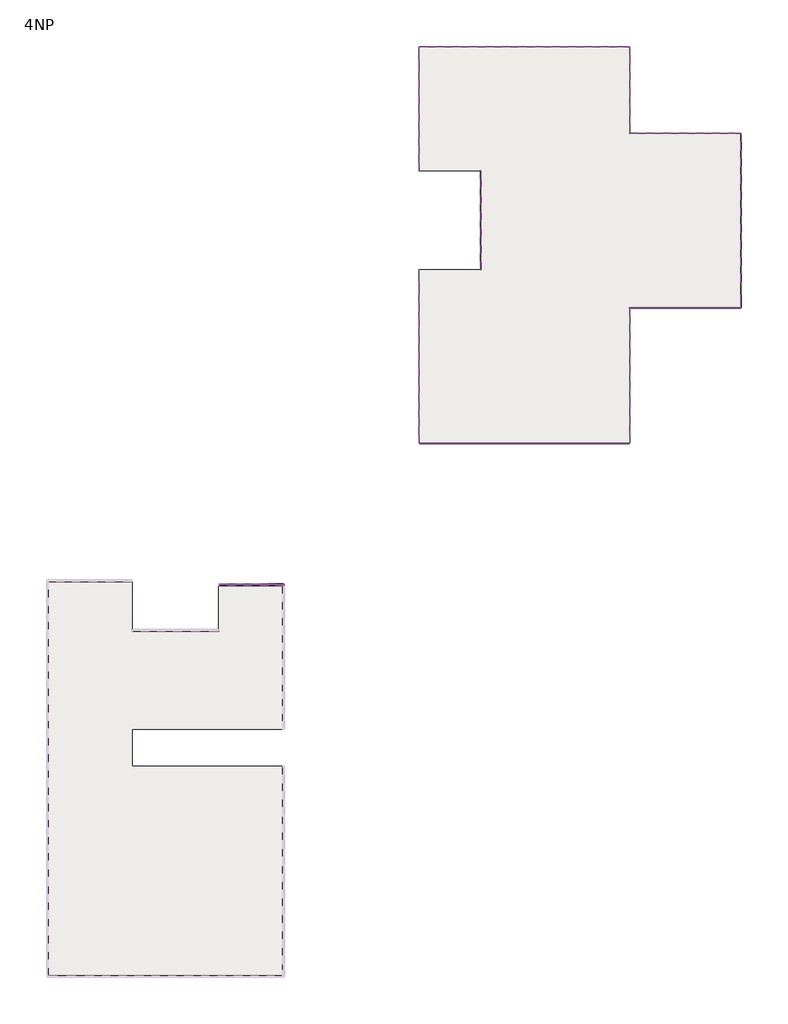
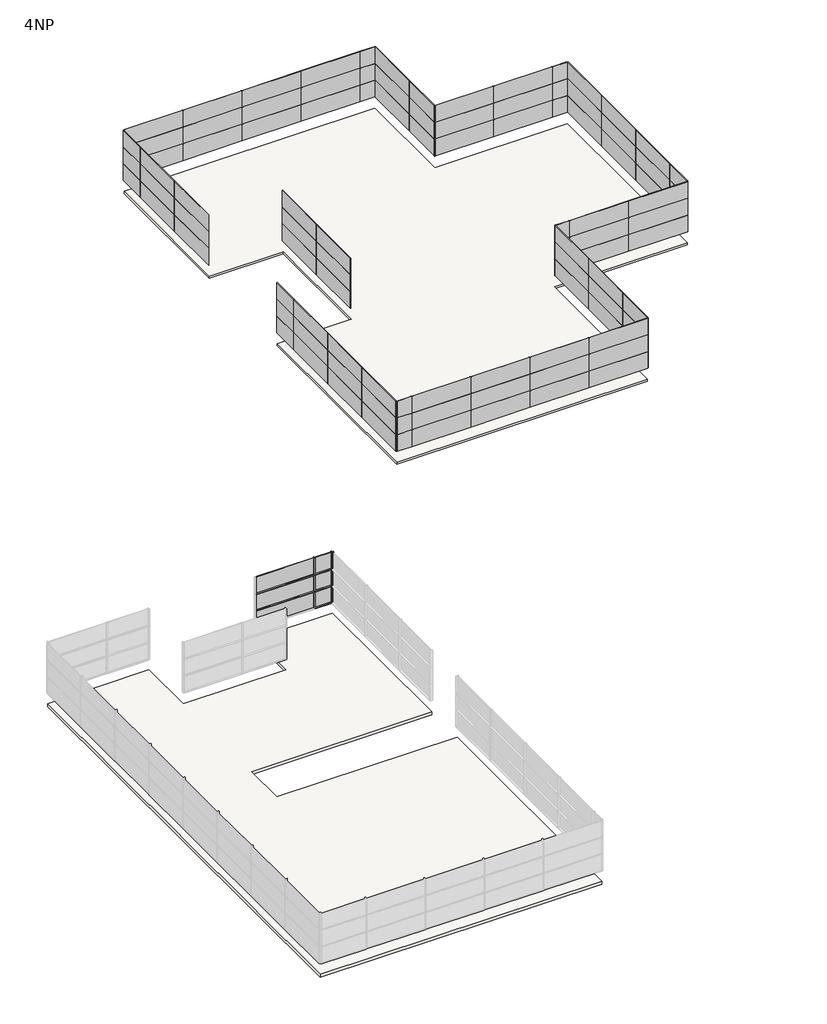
# One storey, part 3 of 3: 108 plates, 14 members, 2 slabs.
"""IFC4 building model written with IfcOpenShell, lengths in millimetres."""

from ifc_helpers import new_model, si_unit, frame, origin, place, context, project, spatial, polyline, outline, extrude, transform, mapped, element, save
from components import rectangular_mullion_50_x_150mm_d99dc9be, rectangular_mullion_50_x_150mm_6588f46c, rectangular_mullion_50_x_150mm_c2546fd4, rectangular_mullion_50_x_150mm_2fe63767, system_panel_glazed_8e9402eb, system_panel_glazed_39d17f19, system_panel_glazed_d6eabcf1, system_panel_glazed_926b6355, system_panel_glazed_d9fb9d0a, system_panel_glazed_4df6a082, system_panel_glazed_76089698, system_panel_glazed_7578c6fa

model = new_model("IFC4")

# Units and contexts
model_context = context("Model", 3, world=origin())
ifc_project = project(units=[si_unit("LENGTHUNIT", "METRE", prefix="MILLI")], contexts=[model_context])

# Site, building, storey
site = spatial("IfcSite", under=ifc_project)
building = spatial("IfcBuilding", under=site)
storey = spatial("IfcBuildingStorey", under=building, Name="4NP", Elevation=16000.0)

# Members
placement = place(None, origin())
rectangular_mullion_50_x_150mm_shape = rectangular_mullion_50_x_150mm_d99dc9be(model_context)
element("IfcMember", 1, ObjectType="Rectangular Mullion : 50 x 150mm", at=placement, inside=storey, context=model_context, shape_type="MappedRepresentation", body=[
    mapped(rectangular_mullion_50_x_150mm_shape, transform((12278.419219, 8039.3555415, 18000.0), x_axis=(1.0, 0.0, 0.0), y_axis=(0.0, 1.0, 0.0), z_axis=(0.0, 0.0, 1.0))),
])
element("IfcMember", 2, ObjectType="Rectangular Mullion : 50 x 150mm", at=placement, inside=storey, context=model_context, shape_type="MappedRepresentation", body=[
    mapped(rectangular_mullion_50_x_150mm_shape, transform((12278.419219, 8039.3555415, 19200.0), x_axis=(1.0, 0.0, 0.0), y_axis=(0.0, 1.0, 0.0), z_axis=(0.0, 0.0, 1.0))),
])
element("IfcMember", 3, ObjectType="Rectangular Mullion : 50 x 150mm", at=placement, inside=storey, context=model_context, shape_type="MappedRepresentation", body=[
    mapped(rectangular_mullion_50_x_150mm_shape, transform((12278.419219, 8039.3555415, 20400.0), x_axis=(1.0, 0.0, 0.0), y_axis=(0.0, 1.0, 0.0), z_axis=(0.0, 0.0, 1.0))),
])
rectangular_mullion_50_x_150mm_2_shape = rectangular_mullion_50_x_150mm_6588f46c(model_context)
element("IfcMember", 4, ObjectType="Rectangular Mullion : 50 x 150mm", at=placement, inside=storey, context=model_context, shape_type="MappedRepresentation", body=[
    mapped(rectangular_mullion_50_x_150mm_2_shape, transform((13503.2660975, 8039.3555415, 18000.0), x_axis=(1.0, 0.0, 0.0), y_axis=(0.0, 1.0, 0.0), z_axis=(0.0, 0.0, 1.0))),
])
element("IfcMember", 5, ObjectType="Rectangular Mullion : 50 x 150mm", at=placement, inside=storey, context=model_context, shape_type="MappedRepresentation", body=[
    mapped(rectangular_mullion_50_x_150mm_2_shape, transform((13503.2660975, 8039.3555415, 19200.0), x_axis=(1.0, 0.0, 0.0), y_axis=(0.0, 1.0, 0.0), z_axis=(0.0, 0.0, 1.0))),
])
element("IfcMember", 6, ObjectType="Rectangular Mullion : 50 x 150mm", at=placement, inside=storey, context=model_context, shape_type="MappedRepresentation", body=[
    mapped(rectangular_mullion_50_x_150mm_2_shape, transform((13503.2660975, 8039.3555415, 20400.0), x_axis=(1.0, 0.0, 0.0), y_axis=(0.0, 1.0, 0.0), z_axis=(0.0, 0.0, 1.0))),
])
rectangular_mullion_50_x_150mm_3_shape = rectangular_mullion_50_x_150mm_c2546fd4(model_context)
element("IfcMember", 7, ObjectType="Rectangular Mullion : 50 x 150mm", at=placement, inside=storey, context=model_context, shape_type="MappedRepresentation", body=[
    mapped(rectangular_mullion_50_x_150mm_3_shape, transform((8328.419219, 8039.3555415, 18000.0), x_axis=(0.0, 0.0, 1.0), y_axis=(0.0, 1.0, 0.0), z_axis=(-1.0, 0.0, 0.0))),
])
element("IfcMember", 8, ObjectType="Rectangular Mullion : 50 x 150mm", at=placement, inside=storey, context=model_context, shape_type="MappedRepresentation", body=[
    mapped(rectangular_mullion_50_x_150mm_3_shape, transform((8328.419219, 8039.3555415, 19200.0), x_axis=(0.0, 0.0, 1.0), y_axis=(0.0, 1.0, 0.0), z_axis=(-1.0, 0.0, 0.0))),
])
element("IfcMember", 9, ObjectType="Rectangular Mullion : 50 x 150mm", at=placement, inside=storey, context=model_context, shape_type="MappedRepresentation", body=[
    mapped(rectangular_mullion_50_x_150mm_2_shape, transform((13503.2660975, 8039.3555415, 19200.0), x_axis=(0.0, 1.0, 0.0), y_axis=(1.0, 0.0, 0.0), z_axis=(0.0, 0.0, -1.0))),
])
element("IfcMember", 10, ObjectType="Rectangular Mullion : 50 x 150mm", at=placement, inside=storey, context=model_context, shape_type="MappedRepresentation", body=[
    mapped(rectangular_mullion_50_x_150mm_2_shape, transform((13503.2660975, 8039.3555415, 18000.0), x_axis=(0.0, 1.0, 0.0), y_axis=(1.0, 0.0, 0.0), z_axis=(0.0, 0.0, -1.0))),
])
element("IfcMember", 11, ObjectType="Rectangular Mullion : 50 x 150mm", at=placement, inside=storey, context=model_context, shape_type="MappedRepresentation", body=[
    mapped(rectangular_mullion_50_x_150mm_2_shape, transform((13503.2660975, 8039.3555415, 16800.0), x_axis=(0.0, 1.0, 0.0), y_axis=(1.0, 0.0, 0.0), z_axis=(0.0, 0.0, -1.0))),
])
rectangular_mullion_50_x_150mm_4_shape = rectangular_mullion_50_x_150mm_2fe63767(model_context)
element("IfcMember", 12, ObjectType="Rectangular Mullion : 50 x 150mm", at=placement, inside=storey, context=model_context, shape_type="MappedRepresentation", body=[
    mapped(rectangular_mullion_50_x_150mm_4_shape, transform((12303.419219, 8039.3555415, 16800.0), x_axis=(0.0, 0.0, 1.0), y_axis=(0.0, 1.0, 0.0), z_axis=(-1.0, 0.0, 0.0))),
])
element("IfcMember", 13, ObjectType="Rectangular Mullion : 50 x 150mm", at=placement, inside=storey, context=model_context, shape_type="MappedRepresentation", body=[
    mapped(rectangular_mullion_50_x_150mm_4_shape, transform((12303.419219, 8039.3555415, 18000.0), x_axis=(0.0, 0.0, 1.0), y_axis=(0.0, 1.0, 0.0), z_axis=(-1.0, 0.0, 0.0))),
])
element("IfcMember", 14, ObjectType="Rectangular Mullion : 50 x 150mm", at=placement, inside=storey, context=model_context, shape_type="MappedRepresentation", body=[
    mapped(rectangular_mullion_50_x_150mm_4_shape, transform((12303.419219, 8039.3555415, 19200.0), x_axis=(0.0, 0.0, 1.0), y_axis=(0.0, 1.0, 0.0), z_axis=(-1.0, 0.0, 0.0))),
])

# Plates
system_panel_glazed_shape = system_panel_glazed_8e9402eb(model_context)
element("IfcPlate", 15, ObjectType="System Panel : Glazed", at=placement, inside=storey, context=model_context, shape_type="MappedRepresentation", body=[
    mapped(system_panel_glazed_shape, transform((10290.919219, 8039.3555415, 16825.0), x_axis=(1.0, 0.0, 0.0), y_axis=(0.0, 1.0, 0.0), z_axis=(0.0, 0.0, 1.0))),
])
element("IfcPlate", 16, ObjectType="System Panel : Glazed", at=placement, inside=storey, context=model_context, shape_type="MappedRepresentation", body=[
    mapped(system_panel_glazed_shape, transform((10290.919219, 8039.3555415, 18025.0), x_axis=(1.0, 0.0, 0.0), y_axis=(0.0, 1.0, 0.0), z_axis=(0.0, 0.0, 1.0))),
])
element("IfcPlate", 17, ObjectType="System Panel : Glazed", at=placement, inside=storey, context=model_context, shape_type="MappedRepresentation", body=[
    mapped(system_panel_glazed_shape, transform((10290.919219, 8039.3555415, 19225.0), x_axis=(1.0, 0.0, 0.0), y_axis=(0.0, 1.0, 0.0), z_axis=(0.0, 0.0, 1.0))),
])
system_panel_glazed_2_shape = system_panel_glazed_39d17f19(model_context)
element("IfcPlate", 18, ObjectType="System Panel : Glazed", at=placement, inside=storey, context=model_context, shape_type="MappedRepresentation", body=[
    mapped(system_panel_glazed_2_shape, transform((12878.3426582, 8039.3555415, 16825.0), x_axis=(1.0, 0.0, 0.0), y_axis=(0.0, 1.0, 0.0), z_axis=(0.0, 0.0, 1.0))),
])
element("IfcPlate", 19, ObjectType="System Panel : Glazed", at=placement, inside=storey, context=model_context, shape_type="MappedRepresentation", body=[
    mapped(system_panel_glazed_2_shape, transform((12878.3426582, 8039.3555415, 18025.0), x_axis=(1.0, 0.0, 0.0), y_axis=(0.0, 1.0, 0.0), z_axis=(0.0, 0.0, 1.0))),
])
element("IfcPlate", 20, ObjectType="System Panel : Glazed", at=placement, inside=storey, context=model_context, shape_type="MappedRepresentation", body=[
    mapped(system_panel_glazed_2_shape, transform((12878.3426582, 8039.3555415, 19225.0), x_axis=(1.0, 0.0, 0.0), y_axis=(0.0, 1.0, 0.0), z_axis=(0.0, 0.0, 1.0))),
])
system_panel_glazed_3_shape = system_panel_glazed_d6eabcf1(model_context)
element("IfcPlate", 21, ObjectType="System Panel : Glazed", at=placement, inside=storey, context=model_context, shape_type="MappedRepresentation", body=[
    mapped(system_panel_glazed_3_shape, transform((39503.2660975, 19519.7749227, 16800.0), x_axis=(-1.0, 0.0, 0.0), y_axis=(0.0, -1.0, 0.0), z_axis=(0.0, 0.0, 1.0))),
])
element("IfcPlate", 22, ObjectType="System Panel : Glazed", at=placement, inside=storey, context=model_context, shape_type="MappedRepresentation", body=[
    mapped(system_panel_glazed_3_shape, transform((35503.2660975, 19519.7749227, 16800.0), x_axis=(-1.0, 0.0, 0.0), y_axis=(0.0, -1.0, 0.0), z_axis=(0.0, 0.0, 1.0))),
])
element("IfcPlate", 23, ObjectType="System Panel : Glazed", at=placement, inside=storey, context=model_context, shape_type="MappedRepresentation", body=[
    mapped(system_panel_glazed_3_shape, transform((31503.2660975, 19519.7749227, 16800.0), x_axis=(-1.0, 0.0, 0.0), y_axis=(0.0, -1.0, 0.0), z_axis=(0.0, 0.0, 1.0))),
])
element("IfcPlate", 24, ObjectType="System Panel : Glazed", at=placement, inside=storey, context=model_context, shape_type="MappedRepresentation", body=[
    mapped(system_panel_glazed_3_shape, transform((27503.2660975, 19519.7749227, 16800.0), x_axis=(-1.0, 0.0, 0.0), y_axis=(0.0, -1.0, 0.0), z_axis=(0.0, 0.0, 1.0))),
])
element("IfcPlate", 25, ObjectType="System Panel : Glazed", at=placement, inside=storey, context=model_context, shape_type="MappedRepresentation", body=[
    mapped(system_panel_glazed_3_shape, transform((39503.2660975, 19519.7749227, 18000.0), x_axis=(-1.0, 0.0, 0.0), y_axis=(0.0, -1.0, 0.0), z_axis=(0.0, 0.0, 1.0))),
])
element("IfcPlate", 26, ObjectType="System Panel : Glazed", at=placement, inside=storey, context=model_context, shape_type="MappedRepresentation", body=[
    mapped(system_panel_glazed_3_shape, transform((35503.2660975, 19519.7749227, 18000.0), x_axis=(-1.0, 0.0, 0.0), y_axis=(0.0, -1.0, 0.0), z_axis=(0.0, 0.0, 1.0))),
])
element("IfcPlate", 27, ObjectType="System Panel : Glazed", at=placement, inside=storey, context=model_context, shape_type="MappedRepresentation", body=[
    mapped(system_panel_glazed_3_shape, transform((31503.2660975, 19519.7749227, 18000.0), x_axis=(-1.0, 0.0, 0.0), y_axis=(0.0, -1.0, 0.0), z_axis=(0.0, 0.0, 1.0))),
])
element("IfcPlate", 28, ObjectType="System Panel : Glazed", at=placement, inside=storey, context=model_context, shape_type="MappedRepresentation", body=[
    mapped(system_panel_glazed_3_shape, transform((27503.2660975, 19519.7749227, 18000.0), x_axis=(-1.0, 0.0, 0.0), y_axis=(0.0, -1.0, 0.0), z_axis=(0.0, 0.0, 1.0))),
])
element("IfcPlate", 29, ObjectType="System Panel : Glazed", at=placement, inside=storey, context=model_context, shape_type="MappedRepresentation", body=[
    mapped(system_panel_glazed_3_shape, transform((39503.2660975, 19519.7749227, 19200.0), x_axis=(-1.0, 0.0, 0.0), y_axis=(0.0, -1.0, 0.0), z_axis=(0.0, 0.0, 1.0))),
])
element("IfcPlate", 30, ObjectType="System Panel : Glazed", at=placement, inside=storey, context=model_context, shape_type="MappedRepresentation", body=[
    mapped(system_panel_glazed_3_shape, transform((35503.2660975, 19519.7749227, 19200.0), x_axis=(-1.0, 0.0, 0.0), y_axis=(0.0, -1.0, 0.0), z_axis=(0.0, 0.0, 1.0))),
])
element("IfcPlate", 31, ObjectType="System Panel : Glazed", at=placement, inside=storey, context=model_context, shape_type="MappedRepresentation", body=[
    mapped(system_panel_glazed_3_shape, transform((31503.2660975, 19519.7749227, 19200.0), x_axis=(-1.0, 0.0, 0.0), y_axis=(0.0, -1.0, 0.0), z_axis=(0.0, 0.0, 1.0))),
])
element("IfcPlate", 32, ObjectType="System Panel : Glazed", at=placement, inside=storey, context=model_context, shape_type="MappedRepresentation", body=[
    mapped(system_panel_glazed_3_shape, transform((27503.2660975, 19519.7749227, 19200.0), x_axis=(-1.0, 0.0, 0.0), y_axis=(0.0, -1.0, 0.0), z_axis=(0.0, 0.0, 1.0))),
])
element("IfcPlate", 33, ObjectType="System Panel : Glazed", at=placement, inside=storey, context=model_context, shape_type="MappedRepresentation", body=[
    mapped(system_panel_glazed_3_shape, transform((24503.2660975, 21519.7749227, 16800.0), x_axis=(0.0, 1.0, 0.0), y_axis=(-1.0, 0.0, 0.0), z_axis=(0.0, 0.0, 1.0))),
])
element("IfcPlate", 34, ObjectType="System Panel : Glazed", at=placement, inside=storey, context=model_context, shape_type="MappedRepresentation", body=[
    mapped(system_panel_glazed_3_shape, transform((24503.2660975, 25519.7749227, 16800.0), x_axis=(0.0, 1.0, 0.0), y_axis=(-1.0, 0.0, 0.0), z_axis=(0.0, 0.0, 1.0))),
])
element("IfcPlate", 35, ObjectType="System Panel : Glazed", at=placement, inside=storey, context=model_context, shape_type="MappedRepresentation", body=[
    mapped(system_panel_glazed_3_shape, transform((24503.2660975, 29519.7749227, 16800.0), x_axis=(0.0, 1.0, 0.0), y_axis=(-1.0, 0.0, 0.0), z_axis=(0.0, 0.0, 1.0))),
])
element("IfcPlate", 36, ObjectType="System Panel : Glazed", at=placement, inside=storey, context=model_context, shape_type="MappedRepresentation", body=[
    mapped(system_panel_glazed_3_shape, transform((24503.2660975, 21519.7749227, 18000.0), x_axis=(0.0, 1.0, 0.0), y_axis=(-1.0, 0.0, 0.0), z_axis=(0.0, 0.0, 1.0))),
])
element("IfcPlate", 37, ObjectType="System Panel : Glazed", at=placement, inside=storey, context=model_context, shape_type="MappedRepresentation", body=[
    mapped(system_panel_glazed_3_shape, transform((24503.2660975, 25519.7749227, 18000.0), x_axis=(0.0, 1.0, 0.0), y_axis=(-1.0, 0.0, 0.0), z_axis=(0.0, 0.0, 1.0))),
])
element("IfcPlate", 38, ObjectType="System Panel : Glazed", at=placement, inside=storey, context=model_context, shape_type="MappedRepresentation", body=[
    mapped(system_panel_glazed_3_shape, transform((24503.2660975, 29519.7749227, 18000.0), x_axis=(0.0, 1.0, 0.0), y_axis=(-1.0, 0.0, 0.0), z_axis=(0.0, 0.0, 1.0))),
])
element("IfcPlate", 39, ObjectType="System Panel : Glazed", at=placement, inside=storey, context=model_context, shape_type="MappedRepresentation", body=[
    mapped(system_panel_glazed_3_shape, transform((24503.2660975, 21519.7749227, 19200.0), x_axis=(0.0, 1.0, 0.0), y_axis=(-1.0, 0.0, 0.0), z_axis=(0.0, 0.0, 1.0))),
])
element("IfcPlate", 40, ObjectType="System Panel : Glazed", at=placement, inside=storey, context=model_context, shape_type="MappedRepresentation", body=[
    mapped(system_panel_glazed_3_shape, transform((24503.2660975, 25519.7749227, 19200.0), x_axis=(0.0, 1.0, 0.0), y_axis=(-1.0, 0.0, 0.0), z_axis=(0.0, 0.0, 1.0))),
])
element("IfcPlate", 41, ObjectType="System Panel : Glazed", at=placement, inside=storey, context=model_context, shape_type="MappedRepresentation", body=[
    mapped(system_panel_glazed_3_shape, transform((24503.2660975, 29519.7749227, 19200.0), x_axis=(0.0, 1.0, 0.0), y_axis=(-1.0, 0.0, 0.0), z_axis=(0.0, 0.0, 1.0))),
])
element("IfcPlate", 42, ObjectType="System Panel : Glazed", at=placement, inside=storey, context=model_context, shape_type="MappedRepresentation", body=[
    mapped(system_panel_glazed_3_shape, transform((29503.2660975, 35519.7749227, 16800.0), x_axis=(0.0, 1.0, 0.0), y_axis=(-1.0, 0.0, 0.0), z_axis=(0.0, 0.0, 1.0))),
])
element("IfcPlate", 43, ObjectType="System Panel : Glazed", at=placement, inside=storey, context=model_context, shape_type="MappedRepresentation", body=[
    mapped(system_panel_glazed_3_shape, transform((29503.2660975, 39519.7749227, 16800.0), x_axis=(0.0, 1.0, 0.0), y_axis=(-1.0, 0.0, 0.0), z_axis=(0.0, 0.0, 1.0))),
])
element("IfcPlate", 44, ObjectType="System Panel : Glazed", at=placement, inside=storey, context=model_context, shape_type="MappedRepresentation", body=[
    mapped(system_panel_glazed_3_shape, transform((29503.2660975, 35519.7749227, 18000.0), x_axis=(0.0, 1.0, 0.0), y_axis=(-1.0, 0.0, 0.0), z_axis=(0.0, 0.0, 1.0))),
])
element("IfcPlate", 45, ObjectType="System Panel : Glazed", at=placement, inside=storey, context=model_context, shape_type="MappedRepresentation", body=[
    mapped(system_panel_glazed_3_shape, transform((29503.2660975, 39519.7749227, 18000.0), x_axis=(0.0, 1.0, 0.0), y_axis=(-1.0, 0.0, 0.0), z_axis=(0.0, 0.0, 1.0))),
])
element("IfcPlate", 46, ObjectType="System Panel : Glazed", at=placement, inside=storey, context=model_context, shape_type="MappedRepresentation", body=[
    mapped(system_panel_glazed_3_shape, transform((29503.2660975, 35519.7749227, 19200.0), x_axis=(0.0, 1.0, 0.0), y_axis=(-1.0, 0.0, 0.0), z_axis=(0.0, 0.0, 1.0))),
])
element("IfcPlate", 47, ObjectType="System Panel : Glazed", at=placement, inside=storey, context=model_context, shape_type="MappedRepresentation", body=[
    mapped(system_panel_glazed_3_shape, transform((29503.2660975, 39519.7749227, 19200.0), x_axis=(0.0, 1.0, 0.0), y_axis=(-1.0, 0.0, 0.0), z_axis=(0.0, 0.0, 1.0))),
])
element("IfcPlate", 48, ObjectType="System Panel : Glazed", at=placement, inside=storey, context=model_context, shape_type="MappedRepresentation", body=[
    mapped(system_panel_glazed_3_shape, transform((24503.2660975, 43519.7749227, 16800.0), x_axis=(0.0, 1.0, 0.0), y_axis=(-1.0, 0.0, 0.0), z_axis=(0.0, 0.0, 1.0))),
])
element("IfcPlate", 49, ObjectType="System Panel : Glazed", at=placement, inside=storey, context=model_context, shape_type="MappedRepresentation", body=[
    mapped(system_panel_glazed_3_shape, transform((24503.2660975, 47519.7749227, 16800.0), x_axis=(0.0, 1.0, 0.0), y_axis=(-1.0, 0.0, 0.0), z_axis=(0.0, 0.0, 1.0))),
])
element("IfcPlate", 50, ObjectType="System Panel : Glazed", at=placement, inside=storey, context=model_context, shape_type="MappedRepresentation", body=[
    mapped(system_panel_glazed_3_shape, transform((24503.2660975, 43519.7749227, 18000.0), x_axis=(0.0, 1.0, 0.0), y_axis=(-1.0, 0.0, 0.0), z_axis=(0.0, 0.0, 1.0))),
])
element("IfcPlate", 51, ObjectType="System Panel : Glazed", at=placement, inside=storey, context=model_context, shape_type="MappedRepresentation", body=[
    mapped(system_panel_glazed_3_shape, transform((24503.2660975, 47519.7749227, 18000.0), x_axis=(0.0, 1.0, 0.0), y_axis=(-1.0, 0.0, 0.0), z_axis=(0.0, 0.0, 1.0))),
])
element("IfcPlate", 52, ObjectType="System Panel : Glazed", at=placement, inside=storey, context=model_context, shape_type="MappedRepresentation", body=[
    mapped(system_panel_glazed_3_shape, transform((24503.2660975, 43519.7749227, 19200.0), x_axis=(0.0, 1.0, 0.0), y_axis=(-1.0, 0.0, 0.0), z_axis=(0.0, 0.0, 1.0))),
])
element("IfcPlate", 53, ObjectType="System Panel : Glazed", at=placement, inside=storey, context=model_context, shape_type="MappedRepresentation", body=[
    mapped(system_panel_glazed_3_shape, transform((24503.2660975, 47519.7749227, 19200.0), x_axis=(0.0, 1.0, 0.0), y_axis=(-1.0, 0.0, 0.0), z_axis=(0.0, 0.0, 1.0))),
])
element("IfcPlate", 54, ObjectType="System Panel : Glazed", at=placement, inside=storey, context=model_context, shape_type="MappedRepresentation", body=[
    mapped(system_panel_glazed_3_shape, transform((48503.2660975, 30457.4517739, 16800.0), x_axis=(-1.0, 0.0, 0.0), y_axis=(0.0, -1.0, 0.0), z_axis=(0.0, 0.0, 1.0))),
])
element("IfcPlate", 55, ObjectType="System Panel : Glazed", at=placement, inside=storey, context=model_context, shape_type="MappedRepresentation", body=[
    mapped(system_panel_glazed_3_shape, transform((44503.2660975, 30457.4517739, 16800.0), x_axis=(-1.0, 0.0, 0.0), y_axis=(0.0, -1.0, 0.0), z_axis=(0.0, 0.0, 1.0))),
])
element("IfcPlate", 56, ObjectType="System Panel : Glazed", at=placement, inside=storey, context=model_context, shape_type="MappedRepresentation", body=[
    mapped(system_panel_glazed_3_shape, transform((48503.2660975, 30457.4517739, 18000.0), x_axis=(-1.0, 0.0, 0.0), y_axis=(0.0, -1.0, 0.0), z_axis=(0.0, 0.0, 1.0))),
])
element("IfcPlate", 57, ObjectType="System Panel : Glazed", at=placement, inside=storey, context=model_context, shape_type="MappedRepresentation", body=[
    mapped(system_panel_glazed_3_shape, transform((44503.2660975, 30457.4517739, 18000.0), x_axis=(-1.0, 0.0, 0.0), y_axis=(0.0, -1.0, 0.0), z_axis=(0.0, 0.0, 1.0))),
])
element("IfcPlate", 58, ObjectType="System Panel : Glazed", at=placement, inside=storey, context=model_context, shape_type="MappedRepresentation", body=[
    mapped(system_panel_glazed_3_shape, transform((48503.2660975, 30457.4517739, 19200.0), x_axis=(-1.0, 0.0, 0.0), y_axis=(0.0, -1.0, 0.0), z_axis=(0.0, 0.0, 1.0))),
])
element("IfcPlate", 59, ObjectType="System Panel : Glazed", at=placement, inside=storey, context=model_context, shape_type="MappedRepresentation", body=[
    mapped(system_panel_glazed_3_shape, transform((44503.2660975, 30457.4517739, 19200.0), x_axis=(-1.0, 0.0, 0.0), y_axis=(0.0, -1.0, 0.0), z_axis=(0.0, 0.0, 1.0))),
])
element("IfcPlate", 60, ObjectType="System Panel : Glazed", at=placement, inside=storey, context=model_context, shape_type="MappedRepresentation", body=[
    mapped(system_panel_glazed_3_shape, transform((26503.2660975, 51519.7749227, 16800.0), x_axis=(1.0, 0.0, 0.0), y_axis=(0.0, 1.0, 0.0), z_axis=(0.0, 0.0, 1.0))),
])
element("IfcPlate", 61, ObjectType="System Panel : Glazed", at=placement, inside=storey, context=model_context, shape_type="MappedRepresentation", body=[
    mapped(system_panel_glazed_3_shape, transform((30503.2660975, 51519.7749227, 16800.0), x_axis=(1.0, 0.0, 0.0), y_axis=(0.0, 1.0, 0.0), z_axis=(0.0, 0.0, 1.0))),
])
element("IfcPlate", 62, ObjectType="System Panel : Glazed", at=placement, inside=storey, context=model_context, shape_type="MappedRepresentation", body=[
    mapped(system_panel_glazed_3_shape, transform((34503.2660975, 51519.7749227, 16800.0), x_axis=(1.0, 0.0, 0.0), y_axis=(0.0, 1.0, 0.0), z_axis=(0.0, 0.0, 1.0))),
])
element("IfcPlate", 63, ObjectType="System Panel : Glazed", at=placement, inside=storey, context=model_context, shape_type="MappedRepresentation", body=[
    mapped(system_panel_glazed_3_shape, transform((38503.2660975, 51519.7749227, 16800.0), x_axis=(1.0, 0.0, 0.0), y_axis=(0.0, 1.0, 0.0), z_axis=(0.0, 0.0, 1.0))),
])
element("IfcPlate", 64, ObjectType="System Panel : Glazed", at=placement, inside=storey, context=model_context, shape_type="MappedRepresentation", body=[
    mapped(system_panel_glazed_3_shape, transform((26503.2660975, 51519.7749227, 18000.0), x_axis=(1.0, 0.0, 0.0), y_axis=(0.0, 1.0, 0.0), z_axis=(0.0, 0.0, 1.0))),
])
element("IfcPlate", 65, ObjectType="System Panel : Glazed", at=placement, inside=storey, context=model_context, shape_type="MappedRepresentation", body=[
    mapped(system_panel_glazed_3_shape, transform((30503.2660975, 51519.7749227, 18000.0), x_axis=(1.0, 0.0, 0.0), y_axis=(0.0, 1.0, 0.0), z_axis=(0.0, 0.0, 1.0))),
])
element("IfcPlate", 66, ObjectType="System Panel : Glazed", at=placement, inside=storey, context=model_context, shape_type="MappedRepresentation", body=[
    mapped(system_panel_glazed_3_shape, transform((34503.2660975, 51519.7749227, 18000.0), x_axis=(1.0, 0.0, 0.0), y_axis=(0.0, 1.0, 0.0), z_axis=(0.0, 0.0, 1.0))),
])
element("IfcPlate", 67, ObjectType="System Panel : Glazed", at=placement, inside=storey, context=model_context, shape_type="MappedRepresentation", body=[
    mapped(system_panel_glazed_3_shape, transform((38503.2660975, 51519.7749227, 18000.0), x_axis=(1.0, 0.0, 0.0), y_axis=(0.0, 1.0, 0.0), z_axis=(0.0, 0.0, 1.0))),
])
element("IfcPlate", 68, ObjectType="System Panel : Glazed", at=placement, inside=storey, context=model_context, shape_type="MappedRepresentation", body=[
    mapped(system_panel_glazed_3_shape, transform((26503.2660975, 51519.7749227, 19200.0), x_axis=(1.0, 0.0, 0.0), y_axis=(0.0, 1.0, 0.0), z_axis=(0.0, 0.0, 1.0))),
])
element("IfcPlate", 69, ObjectType="System Panel : Glazed", at=placement, inside=storey, context=model_context, shape_type="MappedRepresentation", body=[
    mapped(system_panel_glazed_3_shape, transform((30503.2660975, 51519.7749227, 19200.0), x_axis=(1.0, 0.0, 0.0), y_axis=(0.0, 1.0, 0.0), z_axis=(0.0, 0.0, 1.0))),
])
element("IfcPlate", 70, ObjectType="System Panel : Glazed", at=placement, inside=storey, context=model_context, shape_type="MappedRepresentation", body=[
    mapped(system_panel_glazed_3_shape, transform((34503.2660975, 51519.7749227, 19200.0), x_axis=(1.0, 0.0, 0.0), y_axis=(0.0, 1.0, 0.0), z_axis=(0.0, 0.0, 1.0))),
])
element("IfcPlate", 71, ObjectType="System Panel : Glazed", at=placement, inside=storey, context=model_context, shape_type="MappedRepresentation", body=[
    mapped(system_panel_glazed_3_shape, transform((38503.2660975, 51519.7749227, 19200.0), x_axis=(1.0, 0.0, 0.0), y_axis=(0.0, 1.0, 0.0), z_axis=(0.0, 0.0, 1.0))),
])
element("IfcPlate", 72, ObjectType="System Panel : Glazed", at=placement, inside=storey, context=model_context, shape_type="MappedRepresentation", body=[
    mapped(system_panel_glazed_3_shape, transform((41503.2660975, 49519.7749227, 16800.0), x_axis=(0.0, -1.0, 0.0), y_axis=(1.0, 0.0, 0.0), z_axis=(0.0, 0.0, 1.0))),
])
element("IfcPlate", 73, ObjectType="System Panel : Glazed", at=placement, inside=storey, context=model_context, shape_type="MappedRepresentation", body=[
    mapped(system_panel_glazed_3_shape, transform((41503.2660975, 49519.7749227, 18000.0), x_axis=(0.0, -1.0, 0.0), y_axis=(1.0, 0.0, 0.0), z_axis=(0.0, 0.0, 1.0))),
])
element("IfcPlate", 74, ObjectType="System Panel : Glazed", at=placement, inside=storey, context=model_context, shape_type="MappedRepresentation", body=[
    mapped(system_panel_glazed_3_shape, transform((41503.2660975, 49519.7749227, 19200.0), x_axis=(0.0, -1.0, 0.0), y_axis=(1.0, 0.0, 0.0), z_axis=(0.0, 0.0, 1.0))),
])
element("IfcPlate", 75, ObjectType="System Panel : Glazed", at=placement, inside=storey, context=model_context, shape_type="MappedRepresentation", body=[
    mapped(system_panel_glazed_3_shape, transform((43503.2660975, 44519.7749227, 16800.0), x_axis=(1.0, 0.0, 0.0), y_axis=(0.0, 1.0, 0.0), z_axis=(0.0, 0.0, 1.0))),
])
element("IfcPlate", 76, ObjectType="System Panel : Glazed", at=placement, inside=storey, context=model_context, shape_type="MappedRepresentation", body=[
    mapped(system_panel_glazed_3_shape, transform((47503.2660975, 44519.7749227, 16800.0), x_axis=(1.0, 0.0, 0.0), y_axis=(0.0, 1.0, 0.0), z_axis=(0.0, 0.0, 1.0))),
])
element("IfcPlate", 77, ObjectType="System Panel : Glazed", at=placement, inside=storey, context=model_context, shape_type="MappedRepresentation", body=[
    mapped(system_panel_glazed_3_shape, transform((43503.2660975, 44519.7749227, 18000.0), x_axis=(1.0, 0.0, 0.0), y_axis=(0.0, 1.0, 0.0), z_axis=(0.0, 0.0, 1.0))),
])
element("IfcPlate", 78, ObjectType="System Panel : Glazed", at=placement, inside=storey, context=model_context, shape_type="MappedRepresentation", body=[
    mapped(system_panel_glazed_3_shape, transform((47503.2660975, 44519.7749227, 18000.0), x_axis=(1.0, 0.0, 0.0), y_axis=(0.0, 1.0, 0.0), z_axis=(0.0, 0.0, 1.0))),
])
element("IfcPlate", 79, ObjectType="System Panel : Glazed", at=placement, inside=storey, context=model_context, shape_type="MappedRepresentation", body=[
    mapped(system_panel_glazed_3_shape, transform((43503.2660975, 44519.7749227, 19200.0), x_axis=(1.0, 0.0, 0.0), y_axis=(0.0, 1.0, 0.0), z_axis=(0.0, 0.0, 1.0))),
])
element("IfcPlate", 80, ObjectType="System Panel : Glazed", at=placement, inside=storey, context=model_context, shape_type="MappedRepresentation", body=[
    mapped(system_panel_glazed_3_shape, transform((47503.2660975, 44519.7749227, 19200.0), x_axis=(1.0, 0.0, 0.0), y_axis=(0.0, 1.0, 0.0), z_axis=(0.0, 0.0, 1.0))),
])
element("IfcPlate", 81, ObjectType="System Panel : Glazed", at=placement, inside=storey, context=model_context, shape_type="MappedRepresentation", body=[
    mapped(system_panel_glazed_3_shape, transform((50503.2660975, 42519.7749227, 16800.0), x_axis=(0.0, -1.0, 0.0), y_axis=(1.0, 0.0, 0.0), z_axis=(0.0, 0.0, 1.0))),
])
element("IfcPlate", 82, ObjectType="System Panel : Glazed", at=placement, inside=storey, context=model_context, shape_type="MappedRepresentation", body=[
    mapped(system_panel_glazed_3_shape, transform((50503.2660975, 38519.7749227, 16800.0), x_axis=(0.0, -1.0, 0.0), y_axis=(1.0, 0.0, 0.0), z_axis=(0.0, 0.0, 1.0))),
])
element("IfcPlate", 83, ObjectType="System Panel : Glazed", at=placement, inside=storey, context=model_context, shape_type="MappedRepresentation", body=[
    mapped(system_panel_glazed_3_shape, transform((50503.2660975, 34519.7749227, 16800.0), x_axis=(0.0, -1.0, 0.0), y_axis=(1.0, 0.0, 0.0), z_axis=(0.0, 0.0, 1.0))),
])
element("IfcPlate", 84, ObjectType="System Panel : Glazed", at=placement, inside=storey, context=model_context, shape_type="MappedRepresentation", body=[
    mapped(system_panel_glazed_3_shape, transform((50503.2660975, 42519.7749227, 18000.0), x_axis=(0.0, -1.0, 0.0), y_axis=(1.0, 0.0, 0.0), z_axis=(0.0, 0.0, 1.0))),
])
element("IfcPlate", 85, ObjectType="System Panel : Glazed", at=placement, inside=storey, context=model_context, shape_type="MappedRepresentation", body=[
    mapped(system_panel_glazed_3_shape, transform((50503.2660975, 38519.7749227, 18000.0), x_axis=(0.0, -1.0, 0.0), y_axis=(1.0, 0.0, 0.0), z_axis=(0.0, 0.0, 1.0))),
])
element("IfcPlate", 86, ObjectType="System Panel : Glazed", at=placement, inside=storey, context=model_context, shape_type="MappedRepresentation", body=[
    mapped(system_panel_glazed_3_shape, transform((50503.2660975, 34519.7749227, 18000.0), x_axis=(0.0, -1.0, 0.0), y_axis=(1.0, 0.0, 0.0), z_axis=(0.0, 0.0, 1.0))),
])
element("IfcPlate", 87, ObjectType="System Panel : Glazed", at=placement, inside=storey, context=model_context, shape_type="MappedRepresentation", body=[
    mapped(system_panel_glazed_3_shape, transform((50503.2660975, 42519.7749227, 19200.0), x_axis=(0.0, -1.0, 0.0), y_axis=(1.0, 0.0, 0.0), z_axis=(0.0, 0.0, 1.0))),
])
element("IfcPlate", 88, ObjectType="System Panel : Glazed", at=placement, inside=storey, context=model_context, shape_type="MappedRepresentation", body=[
    mapped(system_panel_glazed_3_shape, transform((50503.2660975, 38519.7749227, 19200.0), x_axis=(0.0, -1.0, 0.0), y_axis=(1.0, 0.0, 0.0), z_axis=(0.0, 0.0, 1.0))),
])
element("IfcPlate", 89, ObjectType="System Panel : Glazed", at=placement, inside=storey, context=model_context, shape_type="MappedRepresentation", body=[
    mapped(system_panel_glazed_3_shape, transform((50503.2660975, 34519.7749227, 19200.0), x_axis=(0.0, -1.0, 0.0), y_axis=(1.0, 0.0, 0.0), z_axis=(0.0, 0.0, 1.0))),
])
element("IfcPlate", 90, ObjectType="System Panel : Glazed", at=placement, inside=storey, context=model_context, shape_type="MappedRepresentation", body=[
    mapped(system_panel_glazed_3_shape, transform((41503.2660975, 28457.4517739, 16800.0), x_axis=(0.0, -1.0, 0.0), y_axis=(1.0, 0.0, 0.0), z_axis=(0.0, 0.0, 1.0))),
])
element("IfcPlate", 91, ObjectType="System Panel : Glazed", at=placement, inside=storey, context=model_context, shape_type="MappedRepresentation", body=[
    mapped(system_panel_glazed_3_shape, transform((41503.2660975, 24457.4517739, 16800.0), x_axis=(0.0, -1.0, 0.0), y_axis=(1.0, 0.0, 0.0), z_axis=(0.0, 0.0, 1.0))),
])
element("IfcPlate", 92, ObjectType="System Panel : Glazed", at=placement, inside=storey, context=model_context, shape_type="MappedRepresentation", body=[
    mapped(system_panel_glazed_3_shape, transform((41503.2660975, 28457.4517739, 18000.0), x_axis=(0.0, -1.0, 0.0), y_axis=(1.0, 0.0, 0.0), z_axis=(0.0, 0.0, 1.0))),
])
element("IfcPlate", 93, ObjectType="System Panel : Glazed", at=placement, inside=storey, context=model_context, shape_type="MappedRepresentation", body=[
    mapped(system_panel_glazed_3_shape, transform((41503.2660975, 24457.4517739, 18000.0), x_axis=(0.0, -1.0, 0.0), y_axis=(1.0, 0.0, 0.0), z_axis=(0.0, 0.0, 1.0))),
])
element("IfcPlate", 94, ObjectType="System Panel : Glazed", at=placement, inside=storey, context=model_context, shape_type="MappedRepresentation", body=[
    mapped(system_panel_glazed_3_shape, transform((41503.2660975, 28457.4517739, 19200.0), x_axis=(0.0, -1.0, 0.0), y_axis=(1.0, 0.0, 0.0), z_axis=(0.0, 0.0, 1.0))),
])
element("IfcPlate", 95, ObjectType="System Panel : Glazed", at=placement, inside=storey, context=model_context, shape_type="MappedRepresentation", body=[
    mapped(system_panel_glazed_3_shape, transform((41503.2660975, 24457.4517739, 19200.0), x_axis=(0.0, -1.0, 0.0), y_axis=(1.0, 0.0, 0.0), z_axis=(0.0, 0.0, 1.0))),
])
system_panel_glazed_4_shape = system_panel_glazed_926b6355(model_context)
element("IfcPlate", 96, ObjectType="System Panel : Glazed", at=placement, inside=storey, context=model_context, shape_type="MappedRepresentation", body=[
    mapped(system_panel_glazed_4_shape, transform((25003.2660975, 19519.7749227, 16800.0), x_axis=(-1.0, 0.0, 0.0), y_axis=(0.0, -1.0, 0.0), z_axis=(0.0, 0.0, 1.0))),
])
element("IfcPlate", 97, ObjectType="System Panel : Glazed", at=placement, inside=storey, context=model_context, shape_type="MappedRepresentation", body=[
    mapped(system_panel_glazed_4_shape, transform((25003.2660975, 19519.7749227, 18000.0), x_axis=(-1.0, 0.0, 0.0), y_axis=(0.0, -1.0, 0.0), z_axis=(0.0, 0.0, 1.0))),
])
element("IfcPlate", 98, ObjectType="System Panel : Glazed", at=placement, inside=storey, context=model_context, shape_type="MappedRepresentation", body=[
    mapped(system_panel_glazed_4_shape, transform((25003.2660975, 19519.7749227, 19200.0), x_axis=(-1.0, 0.0, 0.0), y_axis=(0.0, -1.0, 0.0), z_axis=(0.0, 0.0, 1.0))),
])
element("IfcPlate", 99, ObjectType="System Panel : Glazed", at=placement, inside=storey, context=model_context, shape_type="MappedRepresentation", body=[
    mapped(system_panel_glazed_4_shape, transform((42003.2660975, 30457.4517739, 16800.0), x_axis=(-1.0, 0.0, 0.0), y_axis=(0.0, -1.0, 0.0), z_axis=(0.0, 0.0, 1.0))),
])
element("IfcPlate", 100, ObjectType="System Panel : Glazed", at=placement, inside=storey, context=model_context, shape_type="MappedRepresentation", body=[
    mapped(system_panel_glazed_4_shape, transform((42003.2660975, 30457.4517739, 18000.0), x_axis=(-1.0, 0.0, 0.0), y_axis=(0.0, -1.0, 0.0), z_axis=(0.0, 0.0, 1.0))),
])
element("IfcPlate", 101, ObjectType="System Panel : Glazed", at=placement, inside=storey, context=model_context, shape_type="MappedRepresentation", body=[
    mapped(system_panel_glazed_4_shape, transform((42003.2660975, 30457.4517739, 19200.0), x_axis=(-1.0, 0.0, 0.0), y_axis=(0.0, -1.0, 0.0), z_axis=(0.0, 0.0, 1.0))),
])
element("IfcPlate", 102, ObjectType="System Panel : Glazed", at=placement, inside=storey, context=model_context, shape_type="MappedRepresentation", body=[
    mapped(system_panel_glazed_4_shape, transform((41003.2660975, 51519.7749227, 16800.0), x_axis=(1.0, 0.0, 0.0), y_axis=(0.0, 1.0, 0.0), z_axis=(0.0, 0.0, 1.0))),
])
element("IfcPlate", 103, ObjectType="System Panel : Glazed", at=placement, inside=storey, context=model_context, shape_type="MappedRepresentation", body=[
    mapped(system_panel_glazed_4_shape, transform((41003.2660975, 51519.7749227, 18000.0), x_axis=(1.0, 0.0, 0.0), y_axis=(0.0, 1.0, 0.0), z_axis=(0.0, 0.0, 1.0))),
])
element("IfcPlate", 104, ObjectType="System Panel : Glazed", at=placement, inside=storey, context=model_context, shape_type="MappedRepresentation", body=[
    mapped(system_panel_glazed_4_shape, transform((41003.2660975, 51519.7749227, 19200.0), x_axis=(1.0, 0.0, 0.0), y_axis=(0.0, 1.0, 0.0), z_axis=(0.0, 0.0, 1.0))),
])
element("IfcPlate", 105, ObjectType="System Panel : Glazed", at=placement, inside=storey, context=model_context, shape_type="MappedRepresentation", body=[
    mapped(system_panel_glazed_4_shape, transform((50003.2660975, 44519.7749227, 16800.0), x_axis=(1.0, 0.0, 0.0), y_axis=(0.0, 1.0, 0.0), z_axis=(0.0, 0.0, 1.0))),
])
element("IfcPlate", 106, ObjectType="System Panel : Glazed", at=placement, inside=storey, context=model_context, shape_type="MappedRepresentation", body=[
    mapped(system_panel_glazed_4_shape, transform((50003.2660975, 44519.7749227, 18000.0), x_axis=(1.0, 0.0, 0.0), y_axis=(0.0, 1.0, 0.0), z_axis=(0.0, 0.0, 1.0))),
])
element("IfcPlate", 107, ObjectType="System Panel : Glazed", at=placement, inside=storey, context=model_context, shape_type="MappedRepresentation", body=[
    mapped(system_panel_glazed_4_shape, transform((50003.2660975, 44519.7749227, 19200.0), x_axis=(1.0, 0.0, 0.0), y_axis=(0.0, 1.0, 0.0), z_axis=(0.0, 0.0, 1.0))),
])
system_panel_glazed_5_shape = system_panel_glazed_d9fb9d0a(model_context)
element("IfcPlate", 108, ObjectType="System Panel : Glazed", at=placement, inside=storey, context=model_context, shape_type="MappedRepresentation", body=[
    mapped(system_panel_glazed_5_shape, transform((24503.2660975, 32519.7749227, 16800.0), x_axis=(0.0, 1.0, 0.0), y_axis=(-1.0, 0.0, 0.0), z_axis=(0.0, 0.0, 1.0))),
])
element("IfcPlate", 109, ObjectType="System Panel : Glazed", at=placement, inside=storey, context=model_context, shape_type="MappedRepresentation", body=[
    mapped(system_panel_glazed_5_shape, transform((24503.2660975, 32519.7749227, 18000.0), x_axis=(0.0, 1.0, 0.0), y_axis=(-1.0, 0.0, 0.0), z_axis=(0.0, 0.0, 1.0))),
])
element("IfcPlate", 110, ObjectType="System Panel : Glazed", at=placement, inside=storey, context=model_context, shape_type="MappedRepresentation", body=[
    mapped(system_panel_glazed_5_shape, transform((24503.2660975, 32519.7749227, 19200.0), x_axis=(0.0, 1.0, 0.0), y_axis=(-1.0, 0.0, 0.0), z_axis=(0.0, 0.0, 1.0))),
])
element("IfcPlate", 111, ObjectType="System Panel : Glazed", at=placement, inside=storey, context=model_context, shape_type="MappedRepresentation", body=[
    mapped(system_panel_glazed_5_shape, transform((24503.2660975, 50519.7749227, 16800.0), x_axis=(0.0, 1.0, 0.0), y_axis=(-1.0, 0.0, 0.0), z_axis=(0.0, 0.0, 1.0))),
])
element("IfcPlate", 112, ObjectType="System Panel : Glazed", at=placement, inside=storey, context=model_context, shape_type="MappedRepresentation", body=[
    mapped(system_panel_glazed_5_shape, transform((24503.2660975, 50519.7749227, 18000.0), x_axis=(0.0, 1.0, 0.0), y_axis=(-1.0, 0.0, 0.0), z_axis=(0.0, 0.0, 1.0))),
])
element("IfcPlate", 113, ObjectType="System Panel : Glazed", at=placement, inside=storey, context=model_context, shape_type="MappedRepresentation", body=[
    mapped(system_panel_glazed_5_shape, transform((24503.2660975, 50519.7749227, 19200.0), x_axis=(0.0, 1.0, 0.0), y_axis=(-1.0, 0.0, 0.0), z_axis=(0.0, 0.0, 1.0))),
])
system_panel_glazed_6_shape = system_panel_glazed_4df6a082(model_context)
element("IfcPlate", 114, ObjectType="System Panel : Glazed", at=placement, inside=storey, context=model_context, shape_type="MappedRepresentation", body=[
    mapped(system_panel_glazed_6_shape, transform((41503.2660975, 46019.7749227, 16800.0), x_axis=(0.0, -1.0, 0.0), y_axis=(1.0, 0.0, 0.0), z_axis=(0.0, 0.0, 1.0))),
])
element("IfcPlate", 115, ObjectType="System Panel : Glazed", at=placement, inside=storey, context=model_context, shape_type="MappedRepresentation", body=[
    mapped(system_panel_glazed_6_shape, transform((41503.2660975, 46019.7749227, 18000.0), x_axis=(0.0, -1.0, 0.0), y_axis=(1.0, 0.0, 0.0), z_axis=(0.0, 0.0, 1.0))),
])
element("IfcPlate", 116, ObjectType="System Panel : Glazed", at=placement, inside=storey, context=model_context, shape_type="MappedRepresentation", body=[
    mapped(system_panel_glazed_6_shape, transform((41503.2660975, 46019.7749227, 19200.0), x_axis=(0.0, -1.0, 0.0), y_axis=(1.0, 0.0, 0.0), z_axis=(0.0, 0.0, 1.0))),
])
system_panel_glazed_7_shape = system_panel_glazed_76089698(model_context)
element("IfcPlate", 117, ObjectType="System Panel : Glazed", at=placement, inside=storey, context=model_context, shape_type="MappedRepresentation", body=[
    mapped(system_panel_glazed_7_shape, transform((50503.2660975, 31488.6133483, 16800.0), x_axis=(0.0, -1.0, 0.0), y_axis=(1.0, 0.0, 0.0), z_axis=(0.0, 0.0, 1.0))),
])
element("IfcPlate", 118, ObjectType="System Panel : Glazed", at=placement, inside=storey, context=model_context, shape_type="MappedRepresentation", body=[
    mapped(system_panel_glazed_7_shape, transform((50503.2660975, 31488.6133483, 18000.0), x_axis=(0.0, -1.0, 0.0), y_axis=(1.0, 0.0, 0.0), z_axis=(0.0, 0.0, 1.0))),
])
element("IfcPlate", 119, ObjectType="System Panel : Glazed", at=placement, inside=storey, context=model_context, shape_type="MappedRepresentation", body=[
    mapped(system_panel_glazed_7_shape, transform((50503.2660975, 31488.6133483, 19200.0), x_axis=(0.0, -1.0, 0.0), y_axis=(1.0, 0.0, 0.0), z_axis=(0.0, 0.0, 1.0))),
])
system_panel_glazed_8_shape = system_panel_glazed_7578c6fa(model_context)
element("IfcPlate", 120, ObjectType="System Panel : Glazed", at=placement, inside=storey, context=model_context, shape_type="MappedRepresentation", body=[
    mapped(system_panel_glazed_8_shape, transform((41503.2660975, 20988.6133483, 16800.0), x_axis=(0.0, -1.0, 0.0), y_axis=(1.0, 0.0, 0.0), z_axis=(0.0, 0.0, 1.0))),
])
element("IfcPlate", 121, ObjectType="System Panel : Glazed", at=placement, inside=storey, context=model_context, shape_type="MappedRepresentation", body=[
    mapped(system_panel_glazed_8_shape, transform((41503.2660975, 20988.6133483, 18000.0), x_axis=(0.0, -1.0, 0.0), y_axis=(1.0, 0.0, 0.0), z_axis=(0.0, 0.0, 1.0))),
])
element("IfcPlate", 122, ObjectType="System Panel : Glazed", at=placement, inside=storey, context=model_context, shape_type="MappedRepresentation", body=[
    mapped(system_panel_glazed_8_shape, transform((41503.2660975, 20988.6133483, 19200.0), x_axis=(0.0, -1.0, 0.0), y_axis=(1.0, 0.0, 0.0), z_axis=(0.0, 0.0, 1.0))),
])

# Slabs
element("IfcSlab", 123, ObjectType="Generic 150mm", at=placement, inside=storey, context=model_context, shape_type="SweptSolid", body=[
    extrude(outline(polyline([(24503.2660975, 19519.7749227), (24503.2660975, 33519.7749227), (29503.2660975, 33519.7749227), (29503.2660975, 41519.7749227), (24503.2660975, 41519.7749227), (24503.2660975, 51519.7749227), (41503.2660975, 51519.7749227), (41503.2660975, 44519.7749227), (50503.2660975, 44519.7749227), (50503.2660975, 30457.4517739), (41503.2660975, 30457.4517739), (41503.2660975, 19519.7749227), (24503.2660975, 19519.7749227)])), frame((0.0, 0.0, 15850.0), z_axis=(0.0, 0.0, 1.0), x_axis=(1.0, 0.0, 0.0)), (0.0, 0.0, 1.0), 150.0),
])
element("IfcSlab", 124, ObjectType="Insitu Concrete 225mm", at=placement, inside=storey, context=model_context, shape_type="SweptSolid", body=[
    extrude(outline(polyline([(-5587.173406, 8375.9839566), (1278.419219, 8375.9839566), (1278.419219, 4375.9839566), (8278.419219, 4375.9839566), (8278.419219, 8039.3555415), (13503.2660975, 8039.3555415), (13503.2660975, -3624.0160434), (1278.419219, -3624.0160434), (1278.419219, -6624.0160434), (13503.2660975, -6624.0160434), (13503.2660975, -23624.0160434), (-5587.173406, -23624.0160434), (-5587.173406, 8375.9839566)])), frame((0.0, 0.0, 15775.0), z_axis=(0.0, 0.0, 1.0), x_axis=(1.0, 0.0, 0.0)), (0.0, 0.0, 1.0), 225.0),
])

save(model, "model.ifc")
